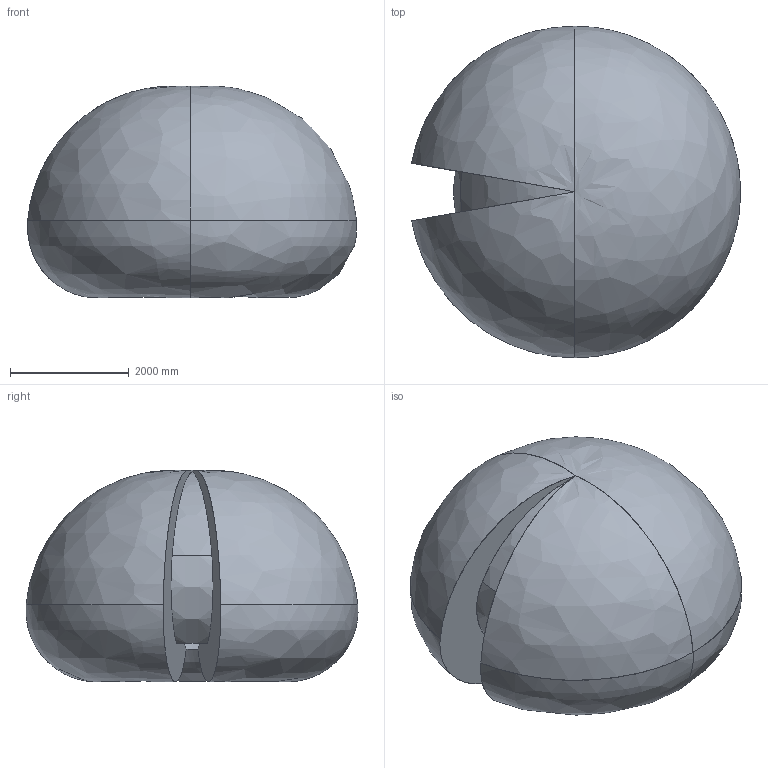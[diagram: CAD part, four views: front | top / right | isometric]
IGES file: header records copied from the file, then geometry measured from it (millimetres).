
Start section: SolidWorks IGES file using analytic representation for surfaces
Global section: file name: C:\DATA\SAP_DOC\LW\IRB 6720\IRB6720-LID-MH_200kg-280_OC_01_SW_J\export\IRB6720-LID-MH_200kg-280_OC_01_IGES_J\IRB6720-LID_200kg-280_OC_00_Working-space.igs; native system: SolidWorks 2024; preprocessor: SolidWorks 2024; author: SEJOVAS3; date: 260526.091421; units: millimetre
Bounding box: 5551.59 x 5600.42 x 3572.45 mm (x, y, z)
Surface area: 97609010.2 mm2 (no closed solid volume)
Topology: 0 solids, 0 shells, 18 faces, 384 edges, 376 vertices
Faces by surface type: bspline 18
